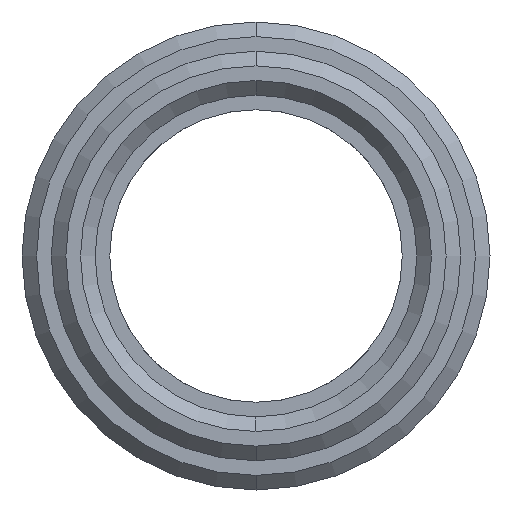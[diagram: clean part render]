
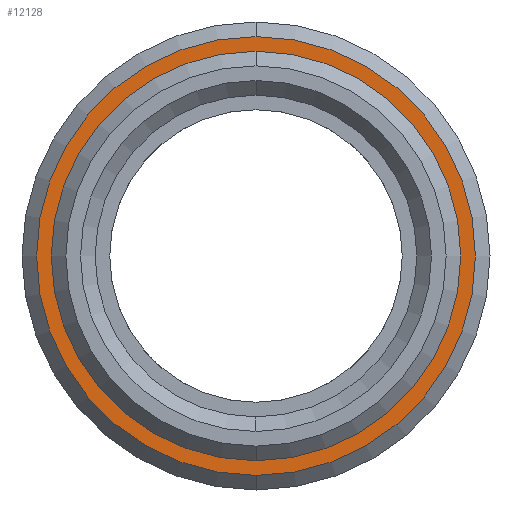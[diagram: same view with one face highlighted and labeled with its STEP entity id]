
A CAD part, left-side view. The second image highlights one B-rep face of the part: STEP entity #12128.
In plain terms, the highlighted planar face has unit normal (-1, 0, 0).
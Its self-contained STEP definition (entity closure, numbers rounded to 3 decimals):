
#4746=CARTESIAN_POINT('',(0.,0.,0.));
#4747=DIRECTION('',(1.,0.,0.));
#4748=DIRECTION('',(0.,0.,1.));
#4749=AXIS2_PLACEMENT_3D('',#4746,#4747,#4748);
#4751=CARTESIAN_POINT('',(0.,0.,0.));
#4752=DIRECTION('',(-1.,0.,0.));
#4753=DIRECTION('',(0.,0.,1.));
#4754=AXIS2_PLACEMENT_3D('',#4751,#4752,#4753);
#4756=CARTESIAN_POINT('',(0.,0.,0.));
#4757=DIRECTION('',(1.,0.,0.));
#4758=DIRECTION('',(0.,0.,-1.));
#4759=AXIS2_PLACEMENT_3D('',#4756,#4757,#4758);
#4761=CARTESIAN_POINT('',(0.,0.,0.));
#4762=DIRECTION('',(1.,0.,0.));
#4763=DIRECTION('',(0.,0.,1.));
#4764=AXIS2_PLACEMENT_3D('',#4761,#4762,#4763);
#9678=CARTESIAN_POINT('',(0.,0.,-7.5));
#9679=CARTESIAN_POINT('',(0.,0.,7.5));
#9680=VERTEX_POINT('',#9678);
#9681=VERTEX_POINT('',#9679);
#9988=CARTESIAN_POINT('',(0.,0.,7.));
#9989=CARTESIAN_POINT('',(0.,0.,-7.));
#9990=VERTEX_POINT('',#9988);
#9991=VERTEX_POINT('',#9989);
#12113=CARTESIAN_POINT('',(0.,0.,0.));
#12114=DIRECTION('',(1.,0.,0.));
#12115=DIRECTION('',(0.,0.,1.));
#12116=AXIS2_PLACEMENT_3D('',#12113,#12114,#12115);
#12117=PLANE('',#12116);
#12119=ORIENTED_EDGE('',*,*,#12118,.T.);
#12121=ORIENTED_EDGE('',*,*,#12120,.T.);
#12122=EDGE_LOOP('',(#12119,#12121));
#12123=FACE_OUTER_BOUND('',#12122,.F.);
#12124=ORIENTED_EDGE('',*,*,#12080,.F.);
#12125=ORIENTED_EDGE('',*,*,#12095,.T.);
#12126=EDGE_LOOP('',(#12124,#12125));
#12127=FACE_BOUND('',#12126,.F.);
#12128=ADVANCED_FACE('',(#12123,#12127),#12117,.F.);
#4750=CIRCLE('',#4749,7.);
#4755=CIRCLE('',#4754,7.);
#4760=CIRCLE('',#4759,7.5);
#4765=CIRCLE('',#4764,7.5);
#12080=EDGE_CURVE('',#9990,#9991,#4750,.T.);
#12095=EDGE_CURVE('',#9990,#9991,#4755,.T.);
#12118=EDGE_CURVE('',#9680,#9681,#4760,.T.);
#12120=EDGE_CURVE('',#9681,#9680,#4765,.T.);
